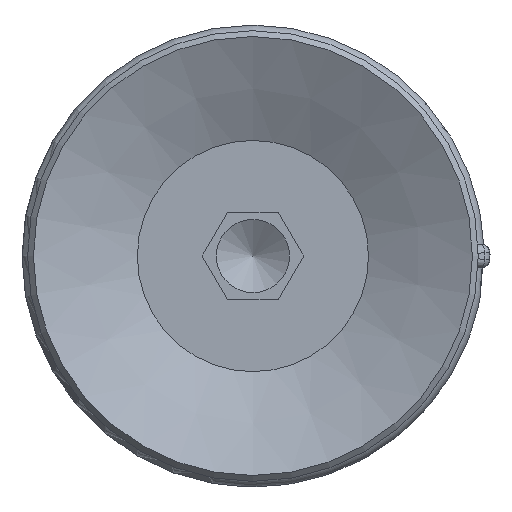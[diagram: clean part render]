
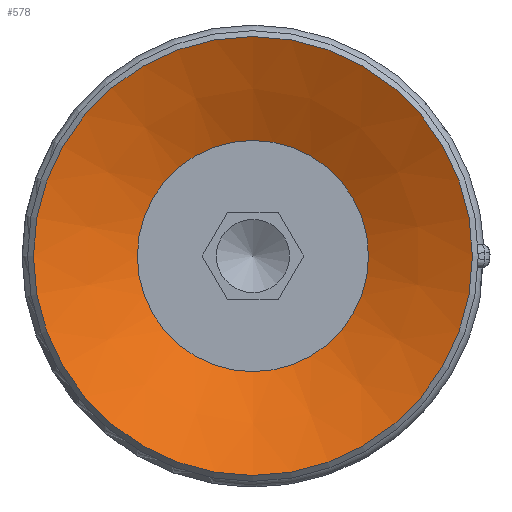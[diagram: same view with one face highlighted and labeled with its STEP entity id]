
A CAD part, front view. The second image highlights one B-rep face of the part: STEP entity #578.
In plain terms, the highlighted conical face has half-angle 64 degrees and reference radius 3.95 mm.
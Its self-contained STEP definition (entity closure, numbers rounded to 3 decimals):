
#578=ADVANCED_FACE('',(#872,#873),#874,.F.);
#872=FACE_BOUND('',#1275,.T.);
#873=FACE_OUTER_BOUND('',#1276,.T.);
#874=CONICAL_SURFACE('',#1277,3.95,1.117);
#1275=EDGE_LOOP('',(#2086));
#1276=EDGE_LOOP('',(#2087));
#1277=AXIS2_PLACEMENT_3D('',#2088,#2089,#2090);
#2086=ORIENTED_EDGE('',*,*,#2311,.F.);
#2087=ORIENTED_EDGE('',*,*,#2307,.T.);
#2088=CARTESIAN_POINT('',(0.0,-29.404,-47.168));
#2089=DIRECTION('',(-0.0,0.,1.0));
#2090=DIRECTION('',(0.0,-1.0,0.));
#2307=EDGE_CURVE('',#2682,#2682,#2683,.T.);
#2311=EDGE_CURVE('',#2690,#2690,#2691,.T.);
#2682=VERTEX_POINT('',#3680);
#2683=CIRCLE('',#3681,7.5);
#2690=VERTEX_POINT('',#3688);
#2691=CIRCLE('',#3689,3.95);
#3680=CARTESIAN_POINT('',(0.0,-36.904,-45.437));
#3681=AXIS2_PLACEMENT_3D('',#4027,#4028,#4029);
#3688=CARTESIAN_POINT('',(0.0,-33.354,-47.168));
#3689=AXIS2_PLACEMENT_3D('',#4039,#4040,#4041);
#4027=CARTESIAN_POINT('',(0.0,-29.404,-45.437));
#4028=DIRECTION('',(0.0,0.,1.0));
#4029=DIRECTION('',(0.0,-1.0,0.));
#4039=CARTESIAN_POINT('',(0.0,-29.404,-47.168));
#4040=DIRECTION('',(0.0,0.,1.0));
#4041=DIRECTION('',(0.0,-1.0,0.));
